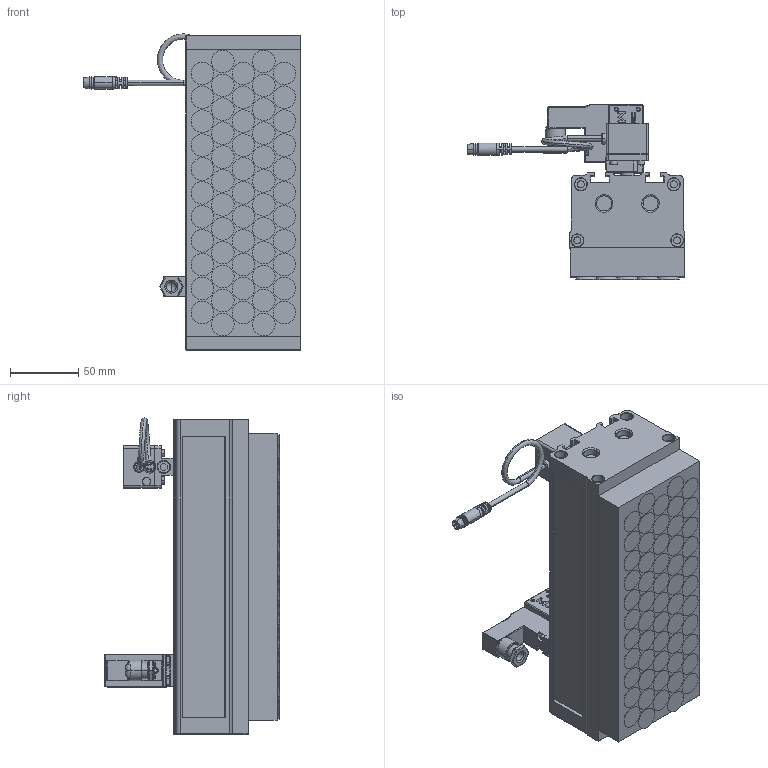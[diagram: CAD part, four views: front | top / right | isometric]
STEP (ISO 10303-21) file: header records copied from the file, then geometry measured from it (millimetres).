
FILE_DESCRIPTION (( 'STEP AP203' ), '1' );
FILE_NAME ('TXP80.STEP', '2021-03-15T07:16:59', ( '' ), ( '' ), 'SwSTEP 2.0', 'SolidWorks 2014', '' );
FILE_SCHEMA (( 'CONFIG_CONTROL_DESIGN' ));
Length unit declared in the file: millimetre
Products named in the file (4): Part-2; TXP80; Part-1; Part-3
Assembly tree (3 placements, depth 2):
  TXP80
    Part-1
    Part-2
    Part-3
Bounding box: 159.07 x 128.47 x 231.35 mm (x, y, z)
Volume: 1416025.2 mm3; surface area: 137664.8 mm2
Topology: 3 solids, 66 shells, 2038 faces, 4842 edges, 3090 vertices
Faces by surface type: plane 1001, bspline 354, cylinder 318, cone 288, torus 49, sphere 28
Entity records: 62727 total; most frequent: CARTESIAN_POINT 21527, ORIENTED_EDGE 9584, DIRECTION 6456, EDGE_CURVE 4792, VERTEX_POINT 3090, VECTOR 2808, LINE 2808, EDGE_LOOP 2244
